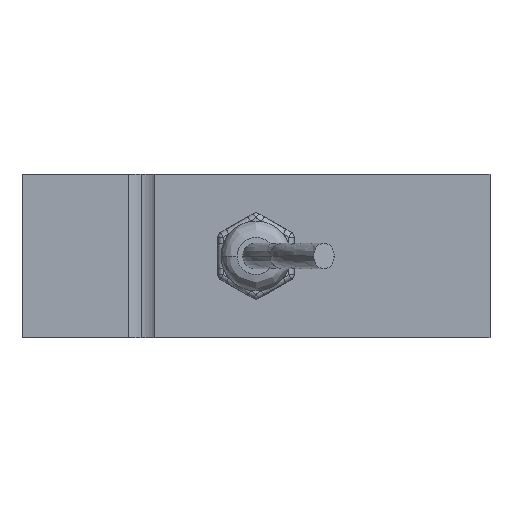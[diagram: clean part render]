
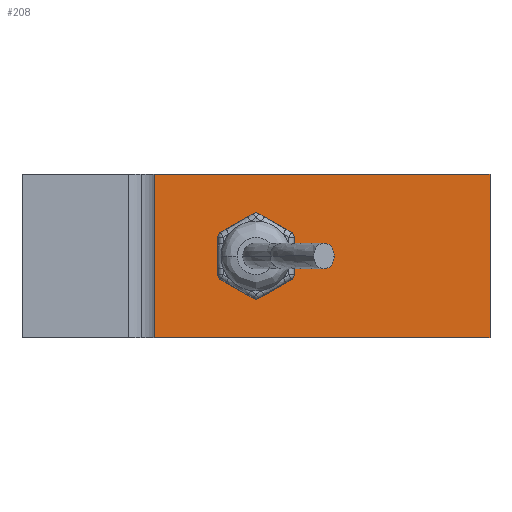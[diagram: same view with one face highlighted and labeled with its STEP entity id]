
A CAD part, left-side view. The second image highlights one B-rep face of the part: STEP entity #208.
In plain terms, the highlighted planar face has unit normal (-1, 0, 0).
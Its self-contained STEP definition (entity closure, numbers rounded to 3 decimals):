
#98 = CARTESIAN_POINT ( 'NONE',  ( 8.676, 15.487, 67.701 ) ) ;
#208 = ADVANCED_FACE ( 'NONE', ( #1157 ), #245, .T. ) ;
#245 = PLANE ( 'NONE',  #2800 ) ;
#539 = LINE ( 'NONE', #3792, #1316 ) ;
#832 = ORIENTED_EDGE ( 'NONE', *, *, #2302, .F. ) ;
#869 = DIRECTION ( 'NONE',  ( 0., 0., 1. ) ) ;
#974 = DIRECTION ( 'NONE',  ( -1., 0., 0. ) ) ;
#1053 = ORIENTED_EDGE ( 'NONE', *, *, #1964, .F. ) ;
#1157 = FACE_OUTER_BOUND ( 'NONE', #2188, .T. ) ;
#1242 = VERTEX_POINT ( 'NONE', #3547 ) ;
#1316 = VECTOR ( 'NONE', #4187, 1000. ) ;
#1420 = DIRECTION ( 'NONE',  ( 0., -1., 0. ) ) ;
#1508 = EDGE_CURVE ( 'NONE', #1242, #3891, #3376, .T. ) ;
#1702 = CARTESIAN_POINT ( 'NONE',  ( 8.676, -46.233, 97.701 ) ) ;
#1964 = EDGE_CURVE ( 'NONE', #1242, #4059, #539, .T. ) ;
#2156 = LINE ( 'NONE', #4601, #3180 ) ;
#2188 = EDGE_LOOP ( 'NONE', ( #4112, #832, #1053, #4167 ) ) ;
#2266 = DIRECTION ( 'NONE',  ( 0., 0., -1. ) ) ;
#2302 = EDGE_CURVE ( 'NONE', #4059, #3026, #2156, .T. ) ;
#2597 = EDGE_CURVE ( 'NONE', #3891, #3026, #4163, .T. ) ;
#2800 = AXIS2_PLACEMENT_3D ( 'NONE', #4133, #974, #869 ) ;
#2991 = VECTOR ( 'NONE', #1420, 1000. ) ;
#3026 = VERTEX_POINT ( 'NONE', #4361 ) ;
#3180 = VECTOR ( 'NONE', #2266, 1000. ) ;
#3376 = LINE ( 'NONE', #3631, #4295 ) ;
#3547 = CARTESIAN_POINT ( 'NONE',  ( 8.676, 15.487, 97.701 ) ) ;
#3631 = CARTESIAN_POINT ( 'NONE',  ( 8.676, 15.487, 67.701 ) ) ;
#3792 = CARTESIAN_POINT ( 'NONE',  ( 8.676, -3.233, 97.701 ) ) ;
#3891 = VERTEX_POINT ( 'NONE', #98 ) ;
#4020 = DIRECTION ( 'NONE',  ( 0., 0., -1. ) ) ;
#4059 = VERTEX_POINT ( 'NONE', #1702 ) ;
#4112 = ORIENTED_EDGE ( 'NONE', *, *, #2597, .T. ) ;
#4133 = CARTESIAN_POINT ( 'NONE',  ( 8.676, -46.233, 67.701 ) ) ;
#4135 = CARTESIAN_POINT ( 'NONE',  ( 8.676, -46.233, 67.701 ) ) ;
#4163 = LINE ( 'NONE', #4135, #2991 ) ;
#4167 = ORIENTED_EDGE ( 'NONE', *, *, #1508, .T. ) ;
#4187 = DIRECTION ( 'NONE',  ( 0., -1., 0. ) ) ;
#4295 = VECTOR ( 'NONE', #4020, 1000. ) ;
#4361 = CARTESIAN_POINT ( 'NONE',  ( 8.676, -46.233, 67.701 ) ) ;
#4601 = CARTESIAN_POINT ( 'NONE',  ( 8.676, -46.233, 67.701 ) ) ;
